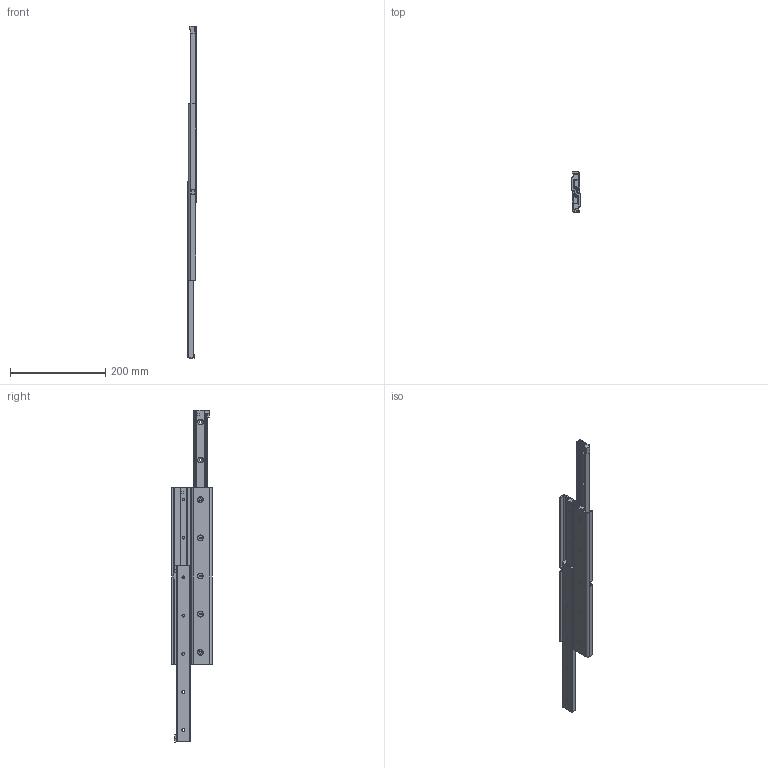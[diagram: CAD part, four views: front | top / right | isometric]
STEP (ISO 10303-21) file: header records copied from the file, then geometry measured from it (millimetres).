
FILE_DESCRIPTION (( 'STEP AP203' ), '1' );
FILE_NAME ('L1984.28D-0370.step', '2018-07-03T12:13:46', ( '' ), ( '' ), 'SwSTEP 2.0', 'SolidWorks 2017', '' );
FILE_SCHEMA (( 'CONFIG_CONTROL_DESIGN' ));
Length unit declared in the file: millimetre
Products named in the file (5): L1984.28D-0370; Part2_L1984.28D-0370; Part0_L1984.28D-0370; Part3_L1984.28D-0370; Part1_L1984.28D-0370
Assembly tree (7 placements, depth 2):
  L1984.28D-0370
    Part0_L1984.28D-0370
    Part2_L1984.28D-0370  x2
    Part1_L1984.28D-0370  x2
    Part3_L1984.28D-0370  x2
Bounding box: 17 x 84 x 696 mm (x, y, z)
Volume: 319436.5 mm3; surface area: 219832.7 mm2
Topology: 7 solids, 7 shells, 422 faces, 1102 edges, 732 vertices
Faces by surface type: plane 292, cylinder 90, cone 40
Entity records: 9206 total; most frequent: CARTESIAN_POINT 1505, DIRECTION 1475, ORIENTED_EDGE 1458, EDGE_CURVE 729, VECTOR 567, LINE 567, VERTEX_POINT 484, AXIS2_PLACEMENT_3D 454
